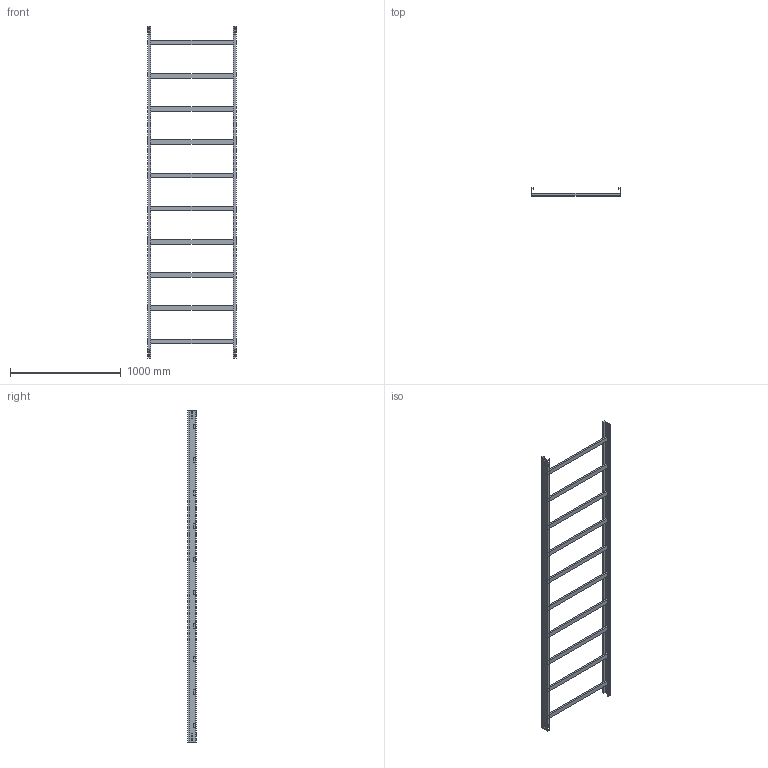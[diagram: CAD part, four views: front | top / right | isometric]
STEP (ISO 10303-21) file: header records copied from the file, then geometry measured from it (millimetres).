
FILE_DESCRIPTION (( 'STEP AP214' ), '1' );
FILE_NAME ('01B3C800.step', '2025-02-21T16:01:06', ( '' ), ( '' ), 'SwSTEP 2.0', 'SolidWorks 2023', '' );
FILE_SCHEMA (( 'AUTOMOTIVE_DESIGN' ));
Length unit declared in the file: millimetre
Products named in the file (3): 01B3C800; TRAVERSINO_800; LONGH.H75
Assembly tree (12 placements, depth 2):
  01B3C800
    LONGH.H75  x2
    TRAVERSINO_800  x10
Bounding box: 800 x 75 x 3000 mm (x, y, z)
Volume: 8794672 mm3; surface area: 2393856 mm2
Topology: 12 solids, 12 shells, 144 faces, 360 edges, 240 vertices
Faces by surface type: plane 144
Entity records: 1696 total; most frequent: CARTESIAN_POINT 283, ORIENTED_EDGE 264, DIRECTION 258, LINE 132, EDGE_CURVE 132, VECTOR 132, VERTEX_POINT 88, EDGE_LOOP 64
